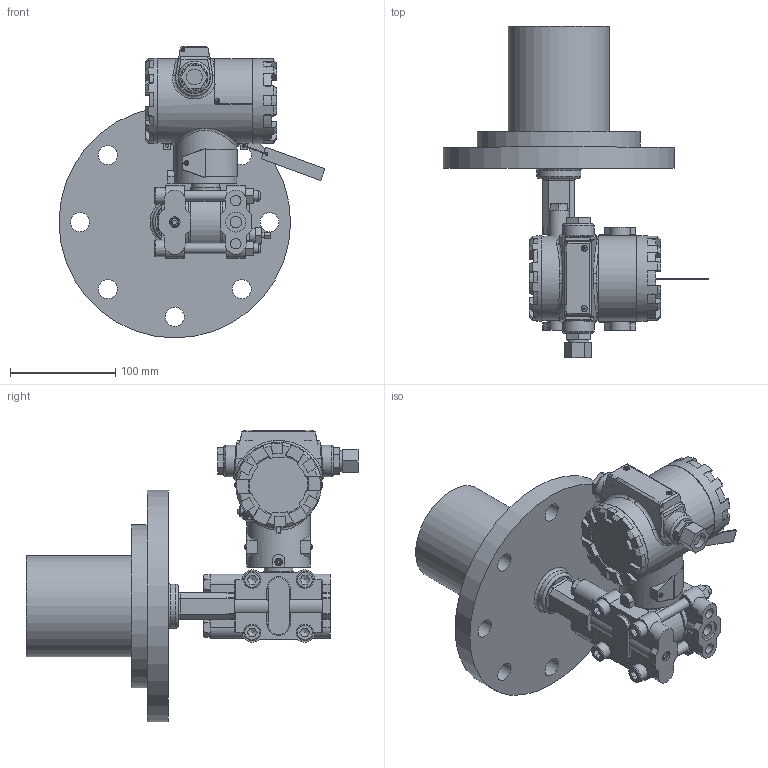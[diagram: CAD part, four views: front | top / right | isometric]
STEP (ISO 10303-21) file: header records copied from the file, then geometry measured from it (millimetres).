
FILE_DESCRIPTION(('STEP AP203'), '1');
FILE_NAME('Ãèäðîñòàòè÷åñêîå äàâëåíèå - ÝÌÈÑ-ÁÀÐ 164 (DN100 PN16)', '', ('UNSPECIFIED'), ('UNSPECIFIED'), 'C3D Converter', 'C3D Toolkit', '');
FILE_SCHEMA(('CONFIG_CONTROL_DESIGN'));
Length unit declared in the file: millimetre
Bounding box: 252.73 x 315.5 x 277.28 mm (x, y, z)
Volume: 2233317.7 mm3; surface area: 348641.1 mm2
Topology: 12 solids, 13 shells, 1256 faces, 3294 edges, 2140 vertices
Faces by surface type: plane 733, cylinder 323, cone 104, bspline 68, torus 20, sphere 7, extrusion 1
Full cylindrical faces by diameter (mm): 1.6 x4, 2 x4, 2.5 x7, 2.8 x1, 3 x7, 3.165 x4, 3.8 x3, 4 x7, 4.5 x4, 5 x3, 5.5 x2, 6 x2, 8 x1, 10 x14, 11 x2, 12 x8, 13 x1, 15 x1, 16 x4, 18 x8, 19 x2, 20 x2, 27 x1, 28 x1, 30 x3, 42 x1, 46 x1, 51.823 x1, 51.962 x3, 52 x1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
Entity records: 64601 total; most frequent: CARTESIAN_POINT 24604, ORIENTED_EDGE 6157, DIRECTION 5946, EDGE_CURVE 3085, AXIS2_PLACEMENT_3D 2161, VERTEX_POINT 2127, VECTOR 1624, LINE 1623
